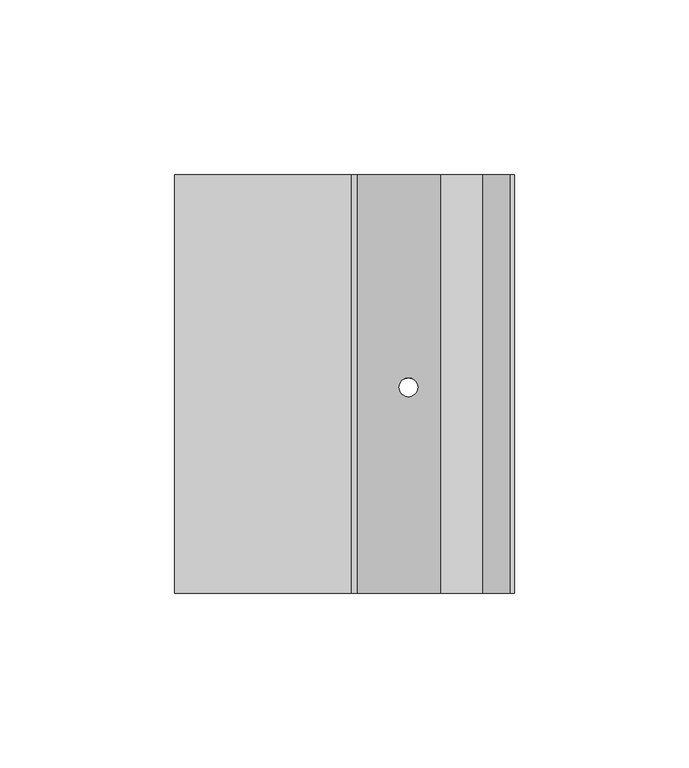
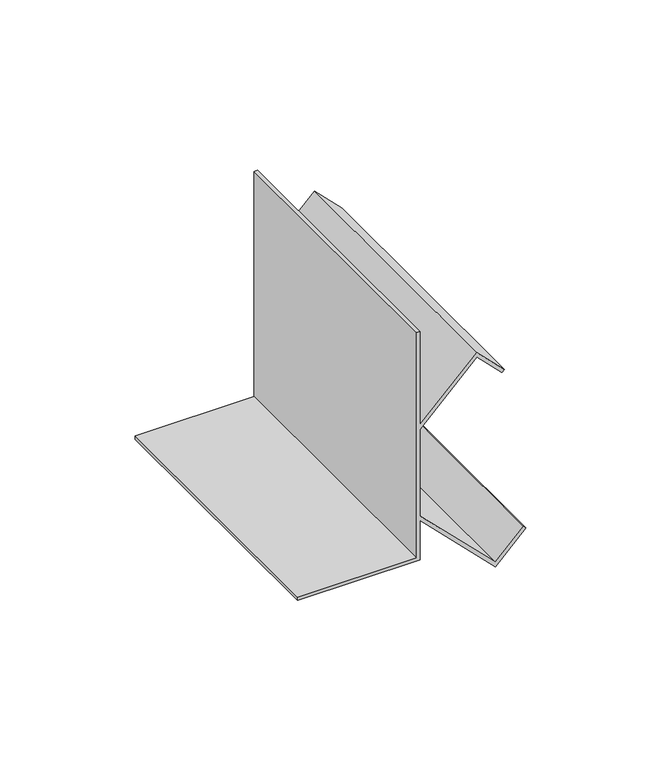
"""IFC4 building model written with IfcOpenShell, lengths in millimetres: proxy geometry, Mechanical Fittings & Accessories16 : Mechanical Fittings & Accessories."""

from ifc_helpers import new_model, si_unit, frame, origin, place, context, project, spatial, polyline, ellipse_curve, source, transform, mapped, element, save
from ifc_brep_helpers import plane_surface, revolved_surface, advanced_brep


def generic_models_a436a1e3(model_context):
    return source(origin(), model_context, "Body", "AdvancedBrep", [
        advanced_brep(
        [(-12208.7639562, 8294.4963986, 4114.8), (-12259.5639562, 8294.4963986, 4114.8), (-12259.5639562, 8294.4963986, 4113.3117188), (-12207.275675, 8294.4963986, 4113.3117188), (-12207.275675, 8294.4963986, 4131.1383509), (-12175.165914, 8294.4963986, 4099.0285899), (-12162.1869427, 8294.4963986, 4112.0075612), (-12163.2393164, 8294.4963986, 4113.059935), (-12175.165914, 8294.4963986, 4101.1333374), (-12207.275675, 8294.4963986, 4133.2430984), (-12207.275675, 8294.4963986, 4172.2761118), (-12183.103414, 8294.4963986, 4196.4483729), (-12172.3674414, 8294.4963986, 4185.7124003), (-12171.3150677, 8294.4963986, 4186.7647741), (-12183.103414, 8294.4963986, 4198.5531204), (-12207.275675, 8294.4963986, 4174.3808594), (-12207.275675, 8294.4963986, 4216.4), (-12208.7639562, 8294.4963986, 4216.4), (-12208.7639562, 8414.4645457, 4114.8), (-12208.7639562, 8414.4645457, 4216.4), (-12207.275675, 8414.4645457, 4216.4), (-12207.275675, 8414.4645457, 4174.3808594), (-12183.103414, 8414.4645457, 4198.5531204), (-12171.3150677, 8414.4645457, 4186.7647741), (-12172.3674414, 8414.4645457, 4185.7124003), (-12183.103414, 8414.4645457, 4196.4483729), (-12207.275675, 8414.4645457, 4172.2761118), (-12207.275675, 8414.4645457, 4133.2430984), (-12175.165914, 8414.4645457, 4101.1333374), (-12163.2393164, 8414.4645457, 4113.059935), (-12162.1869427, 8414.4645457, 4112.0075612), (-12175.165914, 8414.4645457, 4099.0285899), (-12207.275675, 8414.4645457, 4131.1383509), (-12207.275675, 8414.4645457, 4113.3117188), (-12259.5639562, 8414.4645457, 4113.3117188), (-12259.5639562, 8414.4645457, 4114.8), (-12195.1617646, 8353.5191481, 4119.0244406), (-12189.8223978, 8353.5191481, 4113.6850737), (-12189.8223978, 8353.5191481, 4115.7898213), (-12195.1617646, 8353.5191481, 4121.1291881), (-12195.1617646, 8353.5191481, 4184.3900222), (-12189.8223978, 8353.5191481, 4189.729389), (-12189.8223978, 8353.5191481, 4191.8341365), (-12195.1617646, 8353.5191481, 4186.4947697)],
        [
            (0, 1),
            (1, 2),
            (2, 3),
            (3, 4),
            (4, 5),
            (5, 6),
            (6, 7),
            (7, 8),
            (8, 9),
            (9, 10),
            (10, 11),
            (11, 12),
            (12, 13),
            (13, 14),
            (14, 15),
            (15, 16),
            (16, 17),
            (17, 0),
            (18, 19),
            (19, 20),
            (20, 21),
            (21, 22),
            (22, 23),
            (23, 24),
            (24, 25),
            (25, 26),
            (26, 27),
            (27, 28),
            (28, 29),
            (29, 30),
            (30, 31),
            (31, 32),
            (32, 33),
            (33, 34),
            (34, 35),
            (35, 18),
            (0, 18),
            (35, 1),
            (34, 2),
            (33, 3),
            (32, 4),
            (31, 5),
            (36, 37, ellipse_curve(frame((-12192.4920812, 8353.5191481, 4116.3547571), z_axis=(0.7071067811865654, 0.0, 0.7071067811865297), x_axis=(-0.7071067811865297, 0.0, 0.7071067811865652)), 3.7755025, 2.6696834)),
            (37, 36, ellipse_curve(frame((-12192.4920812, 8353.5191481, 4116.3547571), z_axis=(0.7071067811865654, 0.0, 0.7071067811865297), x_axis=(-0.7071067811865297, 0.0, 0.7071067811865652)), 3.7755025, 2.6696834)),
            (30, 6),
            (29, 7),
            (28, 8),
            (27, 9),
            (38, 39, ellipse_curve(frame((-12192.4920812, 8353.5191481, 4118.4595047), z_axis=(-0.7071067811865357, 0.0, -0.7071067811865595), x_axis=(-0.7071067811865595, 0.0, 0.7071067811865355)), 3.7755025, 2.6696834)),
            (39, 38, ellipse_curve(frame((-12192.4920812, 8353.5191481, 4118.4595047), z_axis=(-0.7071067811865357, 0.0, -0.7071067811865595), x_axis=(-0.7071067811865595, 0.0, 0.7071067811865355)), 3.7755025, 2.6696834)),
            (26, 10),
            (25, 11),
            (40, 41, ellipse_curve(frame((-12192.4920812, 8353.5191481, 4187.0597056), z_axis=(-0.7071067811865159, 0.0, 0.7071067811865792), x_axis=(0.7071067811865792, 0.0, 0.7071067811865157)), 3.7755025, 2.6696834)),
            (41, 40, ellipse_curve(frame((-12192.4920812, 8353.5191481, 4187.0597056), z_axis=(-0.7071067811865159, 0.0, 0.7071067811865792), x_axis=(0.7071067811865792, 0.0, 0.7071067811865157)), 3.7755025, 2.6696834)),
            (24, 12),
            (23, 13),
            (22, 14),
            (21, 15),
            (42, 43, ellipse_curve(frame((-12192.4920812, 8353.5191481, 4189.1644531), z_axis=(0.7071067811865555, 0.0, -0.7071067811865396), x_axis=(0.7071067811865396, 0.0, 0.7071067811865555)), 3.7755025, 2.6696834)),
            (43, 42, ellipse_curve(frame((-12192.4920812, 8353.5191481, 4189.1644531), z_axis=(0.7071067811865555, 0.0, -0.7071067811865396), x_axis=(0.7071067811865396, 0.0, 0.7071067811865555)), 3.7755025, 2.6696834)),
            (20, 16),
            (19, 17),
            (36, 39),
            (38, 37),
            (40, 43),
            (42, 41),
        ],
        [
            plane_surface(frame((-12259.5639562, 8294.4963986, 4114.8), z_axis=(0.0, -1.0, 0.0), x_axis=(-1.0, 0.0, 0.0))),
            plane_surface(frame((-12259.5639562, 8414.4645457, 4114.8), z_axis=(0.0, 1.0, 0.0), x_axis=(1.0, 0.0, 0.0))),
            plane_surface(frame((-12208.7639562, 8294.4963986, 4114.8), z_axis=(0.0, 0.0, 1.0), x_axis=(0.0, 1.0, 0.0))),
            plane_surface(frame((-12259.5639562, 8294.4963986, 4114.8), z_axis=(-1.0, 0.0, 0.0), x_axis=(0.0, 1.0, 0.0))),
            plane_surface(frame((-12259.5639562, 8294.4963986, 4113.3117188), z_axis=(0.0, 0.0, -1.0), x_axis=(0.0, 1.0, 0.0))),
            plane_surface(frame((-12207.275675, 8294.4963986, 4113.3117188), z_axis=(1.0, 0.0, 0.0), x_axis=(0.0, 1.0, 0.0))),
            plane_surface(frame((-12207.275675, 8294.4963986, 4131.1383509), z_axis=(-0.7071067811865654, 0.0, -0.7071067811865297), x_axis=(0.0, 1.0, 0.0))),
            plane_surface(frame((-12175.165914, 8294.4963986, 4099.0285899), z_axis=(0.7071067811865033, 0.0, -0.7071067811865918), x_axis=(0.0, 1.0, 0.0))),
            plane_surface(frame((-12162.1869427, 8294.4963986, 4112.0075612), z_axis=(0.7071067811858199, 0.0, 0.7071067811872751), x_axis=(0.0, 1.0, 0.0))),
            plane_surface(frame((-12163.2393164, 8294.4963986, 4113.059935), z_axis=(-0.7071067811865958, 0.0, 0.7071067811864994), x_axis=(0.0, 1.0, 0.0))),
            plane_surface(frame((-12175.165914, 8294.4963986, 4101.1333374), z_axis=(0.7071067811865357, 0.0, 0.7071067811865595), x_axis=(0.0, 1.0, 0.0))),
            plane_surface(frame((-12207.275675, 8294.4963986, 4133.2430984), z_axis=(1.0, 0.0, 0.0), x_axis=(0.0, 1.0, 0.0))),
            plane_surface(frame((-12207.275675, 8294.4963986, 4172.2761118), z_axis=(0.7071067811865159, 0.0, -0.7071067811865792), x_axis=(0.0, 1.0, 0.0))),
            plane_surface(frame((-12183.103414, 8294.4963986, 4196.4483729), z_axis=(-0.7071067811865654, 0.0, -0.7071067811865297), x_axis=(0.0, 1.0, 0.0))),
            plane_surface(frame((-12172.3674414, 8294.4963986, 4185.7124003), z_axis=(0.7071067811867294, 0.0, -0.7071067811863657), x_axis=(0.0, 1.0, 0.0))),
            plane_surface(frame((-12171.3150677, 8294.4963986, 4186.7647741), z_axis=(0.7071067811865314, 0.0, 0.7071067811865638), x_axis=(0.0, 1.0, 0.0))),
            plane_surface(frame((-12183.103414, 8294.4963986, 4198.5531204), z_axis=(-0.7071067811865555, 0.0, 0.7071067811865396), x_axis=(0.0, 1.0, 0.0))),
            plane_surface(frame((-12207.275675, 8294.4963986, 4174.3808594), z_axis=(1.0, 0.0, 0.0), x_axis=(0.0, 1.0, 0.0))),
            plane_surface(frame((-12207.275675, 8294.4963986, 4216.4), z_axis=(0.0, 0.0, 1.0), x_axis=(0.0, 1.0, 0.0))),
            plane_surface(frame((-12208.7639562, 8294.4963986, 4216.4), z_axis=(-1.0, 0.0, 0.0), x_axis=(0.0, 1.0, 0.0))),
            revolved_surface(polyline([(-12189.8223978, 8353.5191481, 4121.129188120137), (-12189.8223978, 8353.5191481, 4113.685073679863)]), (-12192.4920812, 8353.5191481, 4097.2034211), (0.0, 0.0, 1.0)),
            revolved_surface(polyline([(-12189.8223978, 8353.5191481, 4191.834136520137), (-12189.8223978, 8353.5191481, 4184.390022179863)]), (-12192.4920812, 8353.5191481, 4097.2034211), (0.0, 0.0, 1.0)),
        ],
        [
            (0, [[1, 2, 3, 4, 5, 6, 7, 8, 9, 10, 11, 12, 13, 14, 15, 16, 17, 18]]),
            (1, [[19, 20, 21, 22, 23, 24, 25, 26, 27, 28, 29, 30, 31, 32, 33, 34, 35, 36]]),
            (2, [[-1, 37, -36, 38]]),
            (3, [[-2, -38, -35, 39]]),
            (4, [[-3, -39, -34, 40]]),
            (5, [[-4, -40, -33, 41]]),
            (6, [[-5, -41, -32, 42], [43, 44]]),
            (7, [[-6, -42, -31, 45]]),
            (8, [[-7, -45, -30, 46]]),
            (9, [[-8, -46, -29, 47]]),
            (10, [[-9, -47, -28, 48], [49, 50]]),
            (11, [[-10, -48, -27, 51]]),
            (12, [[-11, -51, -26, 52], [53, 54]]),
            (13, [[-12, -52, -25, 55]]),
            (14, [[-13, -55, -24, 56]]),
            (15, [[-14, -56, -23, 57]]),
            (16, [[-15, -57, -22, 58], [59, 60]]),
            (17, [[-16, -58, -21, 61]]),
            (18, [[-17, -61, -20, 62]]),
            (19, [[-18, -62, -19, -37]]),
            (20, [[63, -49, 64, -43]]),
            (21, [[65, -59, 66, -53]]),
            (20, [[-63, -44, -64, -50]]),
            (21, [[-65, -54, -66, -60]]),
        ],
    ),
    ])


if __name__ == "__main__":
    model = new_model("IFC4")
    model_context = context("Model", 3, world=origin())
    ifc_project = project(units=[si_unit("LENGTHUNIT", "METRE", prefix="MILLI")], contexts=[model_context])
    site = spatial("IfcSite", under=ifc_project)
    building = spatial("IfcBuilding", under=site)
    placement = place(None, origin())
    generic_models_shape = generic_models_a436a1e3(model_context)
    element("IfcBuildingElementProxy", 1, Name="Mechanical Fittings & Accessories16 : Mechanical Fittings & Accessories", ObjectType="Mechanical Fittings & Accessories16 : Mechanical Fittings & Accessories", at=placement, inside=building, context=model_context, shape_type="MappedRepresentation", body=[
        mapped(generic_models_shape, transform((0.0, 0.0, 0.0), x_axis=(1.0, 0.0, 0.0), y_axis=(0.0, 1.0, 0.0), z_axis=(0.0, 0.0, 1.0))),
    ])
    save(model, "model.ifc")
